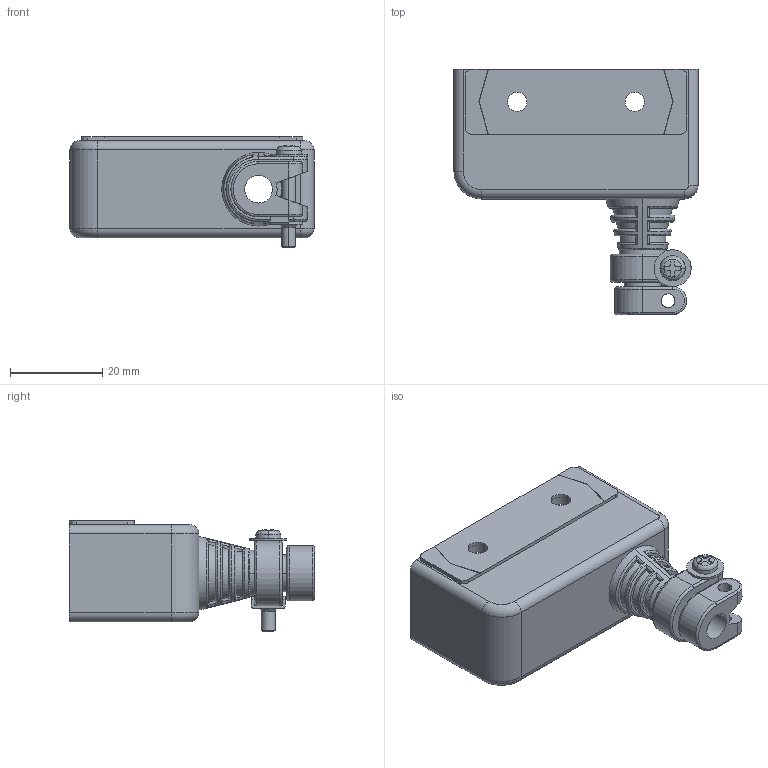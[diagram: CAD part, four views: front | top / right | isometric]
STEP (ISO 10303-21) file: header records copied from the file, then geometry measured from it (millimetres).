
FILE_DESCRIPTION(('Creo Elements/Direct Modeling STEP Export'),'2;1');
FILE_NAME('19970909_OM-2.stp','2013-03-29T11:21:10',(''),(''),'Creo Elements/Direct Modeling STEP processor for AP214 (Solid Model)','Creo Elements/Direct Modeling 18.1B 29-Sep-2012 (C) Parametric Technology GmbH','');
FILE_SCHEMA(('AUTOMOTIVE_DESIGN { 1 0 10303 214 1 1 1 1 }'));
Length unit declared in the file: millimetre
Products named in the file (6): OM-2_本体; LS金具; ねじ; プレスナット; ワッシャー; OM-2
Assembly tree (5 placements, depth 2):
  OM-2
    ワッシャー
    プレスナット
    ねじ
    LS金具
    OM-2_本体
Bounding box: 52.8 x 53 x 23.8 mm (x, y, z)
Volume: 11349.7 mm3; surface area: 13502 mm2
Topology: 5 solids, 5 shells, 251 faces, 650 edges, 418 vertices
Faces by surface type: plane 96, cylinder 87, torus 34, cone 18, bspline 12, sphere 4
Entity records: 9882 total; most frequent: CARTESIAN_POINT 3949, ORIENTED_EDGE 1296, DIRECTION 1083, EDGE_CURVE 648, VERTEX_POINT 418, AXIS2_PLACEMENT_3D 404, EDGE_LOOP 288, VECTOR 275
